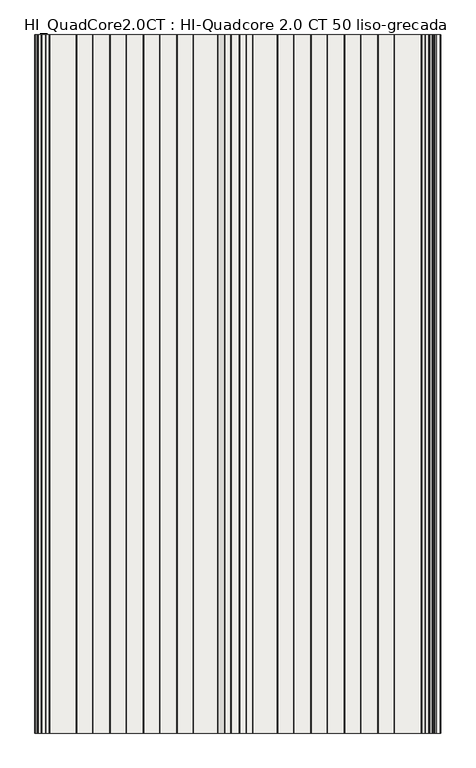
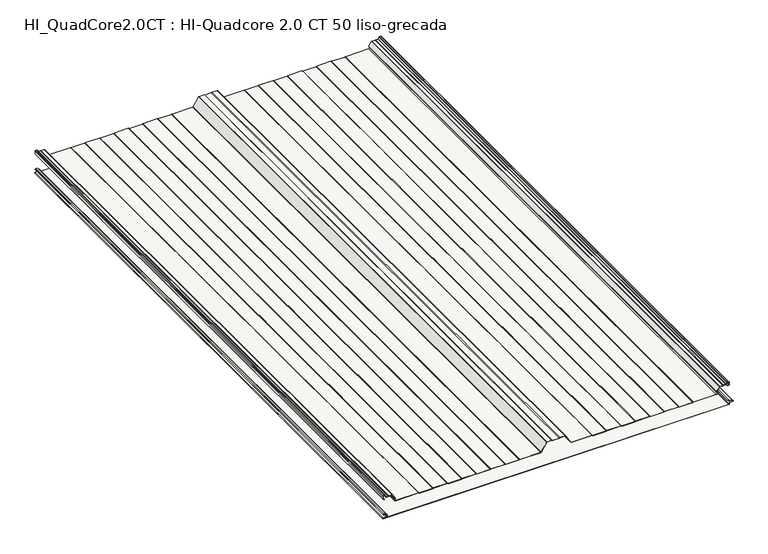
"""IFC4 building model written with IfcOpenShell, lengths in millimetres: slab geometry, HI_QuadCore2.0CT : HI-Quadcore 2.0 CT 50 liso-grecada."""

from ifc_helpers import new_model, si_unit, point, frame, frame_2d, origin, place, context, project, spatial, polyline, circle_curve, trimmed, segment, composite_curve, outline, extrude, source, transform, mapped, element, save
from ifc_brep_helpers import plane_surface, cylinder_surface, revolved_surface, advanced_brep


def hi_quadcore2_0ct_hi_quadcore_2_0_ct_50_liso_grecada_e1955714(model_context):
    return source(origin(), model_context, "Body", "SolidModel", [
        advanced_brep(
        [(1153.6125412, 0.0, 16.239302), (1151.6320413, 0.0, 14.2588021), (1153.3026044, 0.0, 12.2960661), (1161.7027672, 0.0, 10.9645747), (1161.6806488, 0.0, 5.2720118), (1151.7277556, 0.0, 3.7755366), (1152.0100062, 0.0, 0.0), (2297.9590685, 0.0, 0.0), (2300.1391392, 0.0, 2.1800708), (2302.6636211, 0.0, 5.0353254), (2310.9083654, 0.0, 6.0356531), (2310.9083654, 0.0, 10.2043469), (2300.9419234, 0.0, 11.413338), (2298.6324398, 0.0, 14.0237344), (2297.5187526, 0.0, 16.24), (2292.7624398, 0.0, 16.24), (2292.7624398, 0.0, 15.44), (2297.2282701, 0.0, 15.44), (2297.8324398, 0.0, 14.0237344), (2300.8450446, 0.0, 10.6192254), (2310.7843299, 0.0, 9.4135286), (2310.7843221, 0.0, 6.8264698), (2302.5664905, 0.0, 5.8294074), (2299.3391392, 0.0, 2.1800708), (2297.9590685, 0.0, 0.8), (1152.0100062, 0.0, 0.8), (1151.8467032, 0.0, 2.9844289), (1161.7995989, 0.0, 4.4809044), (1161.8278581, 0.0, 11.7547343), (1153.4279307, 0.0, 13.084535), (1152.4319301, 0.0, 14.2584682), (1153.6125693, 0.0, 15.4391074), (1157.510215, 0.0, 15.4391074), (1157.510215, 0.0, 16.239302), (1153.6125412, 2000.0, 16.239302), (1157.510215, 2000.0, 16.239302), (1157.510215, 2000.0, 15.4391074), (1153.6125693, 2000.0, 15.4391074), (1152.4319301, 2000.0, 14.2584682), (1153.4276302, 2000.0, 13.0866965), (1161.8278581, 2000.0, 11.7547343), (1161.7995989, 2000.0, 4.4809044), (1151.8467032, 2000.0, 2.9844289), (1152.0100062, 2000.0, 0.8), (2297.9590685, 2000.0, 0.8), (2299.3391392, 2000.0, 2.1800708), (2302.5664905, 2000.0, 5.8294074), (2310.7843221, 2000.0, 6.8264698), (2310.7843299, 2000.0, 9.4135286), (2300.8450446, 2000.0, 10.6192254), (2297.8324398, 2000.0, 14.0237344), (2297.2282701, 2000.0, 15.44), (2292.7624398, 2000.0, 15.44), (2292.7624398, 2000.0, 16.24), (2297.5187526, 2000.0, 16.24), (2298.6324398, 2000.0, 14.0237344), (2300.9419234, 2000.0, 11.413338), (2310.9083654, 2000.0, 10.2043469), (2310.9083654, 2000.0, 6.0356531), (2302.6636211, 2000.0, 5.0353254), (2300.1391392, 2000.0, 2.1800708), (2297.9590685, 2000.0, 0.0), (1152.0100062, 2000.0, 0.0), (1151.7277556, 2000.0, 3.7755366), (1161.6806488, 2000.0, 5.2720118), (1161.7027672, 2000.0, 10.9645747), (1153.3028397, 2000.0, 12.2943753), (1151.6320413, 2000.0, 14.2588021)],
        [
            (0, 1, circle_curve(frame((1153.6125412, 0.0, 14.2588021), z_axis=(0.0, -1.0, 0.0), x_axis=(1.0, 0.0, 0.0)), 1.9804999)),
            (1, 2, circle_curve(frame((1153.612237, 0.0, 14.2519163), z_axis=(0.0, -1.0, 0.0), x_axis=(1.0, 0.0, 0.0)), 1.9802076)),
            (2, 3),
            (3, 4, circle_curve(frame((1161.2524398, 0.0, 8.12), z_axis=(0.0, 1.0, 0.0), x_axis=(1.0, 0.0, 0.0)), 2.88)),
            (4, 5),
            (5, 6, circle_curve(frame((1152.0100062, 0.0, 1.8983185), z_axis=(0.0, -1.0, 0.0), x_axis=(1.0, 0.0, 0.0)), 1.8983185)),
            (6, 7),
            (7, 8, circle_curve(frame((2297.9590685, 0.0, 2.1800708), z_axis=(0.0, -1.0, 0.0), x_axis=(1.0, 0.0, 0.0)), 2.1800708)),
            (8, 9, circle_curve(frame((2303.0160638, 0.0, 2.1800708), z_axis=(0.0, 1.0, 0.0), x_axis=(1.0, 0.0, 0.0)), 2.8769246)),
            (9, 10),
            (10, 11, circle_curve(frame((2310.5224398, 0.0, 8.12), z_axis=(0.0, -1.0, 0.0), x_axis=(1.0, 0.0, 0.0)), 2.1197737)),
            (11, 12),
            (12, 13, circle_curve(frame((2301.2624398, 0.0, 14.0237344), z_axis=(0.0, 1.0, 0.0), x_axis=(1.0, 0.0, 0.0)), 2.63)),
            (13, 14, circle_curve(frame((2295.8703839, 0.0, 14.0237344), z_axis=(0.0, -1.0, 0.0), x_axis=(1.0, 0.0, 0.0)), 2.7620559)),
            (14, 15),
            (15, 16),
            (16, 17),
            (17, 18, circle_curve(frame((2295.8703839, 0.0, 14.0237344), z_axis=(0.0, 1.0, 0.0), x_axis=(1.0, 0.0, 0.0)), 1.9620559)),
            (18, 19, circle_curve(frame((2301.2624398, 0.0, 14.0237344), z_axis=(0.0, -1.0, 0.0), x_axis=(1.0, 0.0, 0.0)), 3.43)),
            (19, 20),
            (20, 21, circle_curve(frame((2310.5224398, 0.0, 8.12), z_axis=(0.0, 1.0, 0.0), x_axis=(1.0, 0.0, 0.0)), 1.3197737)),
            (21, 22),
            (22, 23, circle_curve(frame((2303.0160638, 0.0, 2.1800708), z_axis=(0.0, -1.0, 0.0), x_axis=(1.0, 0.0, 0.0)), 3.6769246)),
            (23, 24, circle_curve(frame((2297.9590685, 0.0, 2.1800708), z_axis=(0.0, 1.0, 0.0), x_axis=(1.0, 0.0, 0.0)), 1.3800708)),
            (24, 25),
            (25, 26, circle_curve(frame((1152.0100062, 0.0, 1.8983185), z_axis=(0.0, 1.0, 0.0), x_axis=(1.0, 0.0, 0.0)), 1.0983185)),
            (26, 27),
            (27, 28, circle_curve(frame((1161.2524398, 0.0, 8.12), z_axis=(0.0, -1.0, 0.0), x_axis=(1.0, 0.0, 0.0)), 3.68)),
            (28, 29),
            (29, 30, circle_curve(frame((1153.6121809, 0.0, 14.2524448), z_axis=(0.0, 1.0, 0.0), x_axis=(1.0, 0.0, 0.0)), 1.1802661)),
            (30, 31, circle_curve(frame((1153.6125693, 0.0, 14.2584682), z_axis=(0.0, 1.0, 0.0), x_axis=(1.0, 0.0, 0.0)), 1.1806391)),
            (31, 32),
            (32, 33),
            (33, 0),
            (34, 35),
            (35, 36),
            (36, 37),
            (37, 38, circle_curve(frame((1153.6125693, 2000.0, 14.2584682), z_axis=(0.0, -1.0, 0.0), x_axis=(1.0, 0.0, 0.0)), 1.1806391)),
            (38, 39, circle_curve(frame((1153.6121809, 2000.0, 14.2524448), z_axis=(0.0, -1.0, 0.0), x_axis=(1.0, 0.0, 0.0)), 1.1802661)),
            (39, 40),
            (40, 41, circle_curve(frame((1161.2524398, 2000.0, 8.12), z_axis=(0.0, 1.0, 0.0), x_axis=(1.0, 0.0, 0.0)), 3.68)),
            (41, 42),
            (42, 43, circle_curve(frame((1152.0100062, 2000.0, 1.8983185), z_axis=(0.0, -1.0, 0.0), x_axis=(1.0, 0.0, 0.0)), 1.0983185)),
            (43, 44),
            (44, 45, circle_curve(frame((2297.9590685, 2000.0, 2.1800708), z_axis=(0.0, -1.0, 0.0), x_axis=(1.0, 0.0, 0.0)), 1.3800708)),
            (45, 46, circle_curve(frame((2303.0160638, 2000.0, 2.1800708), z_axis=(0.0, 1.0, 0.0), x_axis=(1.0, 0.0, 0.0)), 3.6769246)),
            (46, 47),
            (47, 48, circle_curve(frame((2310.5224398, 2000.0, 8.12), z_axis=(0.0, -1.0, 0.0), x_axis=(1.0, 0.0, 0.0)), 1.3197737)),
            (48, 49),
            (49, 50, circle_curve(frame((2301.2624398, 2000.0, 14.0237344), z_axis=(0.0, 1.0, 0.0), x_axis=(1.0, 0.0, 0.0)), 3.43)),
            (50, 51, circle_curve(frame((2295.8703839, 2000.0, 14.0237344), z_axis=(0.0, -1.0, 0.0), x_axis=(1.0, 0.0, 0.0)), 1.9620559)),
            (51, 52),
            (52, 53),
            (53, 54),
            (54, 55, circle_curve(frame((2295.8703839, 2000.0, 14.0237344), z_axis=(0.0, 1.0, 0.0), x_axis=(1.0, 0.0, 0.0)), 2.7620559)),
            (55, 56, circle_curve(frame((2301.2624398, 2000.0, 14.0237344), z_axis=(0.0, -1.0, 0.0), x_axis=(1.0, 0.0, 0.0)), 2.63)),
            (56, 57),
            (57, 58, circle_curve(frame((2310.5224398, 2000.0, 8.12), z_axis=(0.0, 1.0, 0.0), x_axis=(1.0, 0.0, 0.0)), 2.1197737)),
            (58, 59),
            (59, 60, circle_curve(frame((2303.0160638, 2000.0, 2.1800708), z_axis=(0.0, -1.0, 0.0), x_axis=(1.0, 0.0, 0.0)), 2.8769246)),
            (60, 61, circle_curve(frame((2297.9590685, 2000.0, 2.1800708), z_axis=(0.0, 1.0, 0.0), x_axis=(1.0, 0.0, 0.0)), 2.1800708)),
            (61, 62),
            (62, 63, circle_curve(frame((1152.0100062, 2000.0, 1.8983185), z_axis=(0.0, 1.0, 0.0), x_axis=(1.0, 0.0, 0.0)), 1.8983185)),
            (63, 64),
            (64, 65, circle_curve(frame((1161.2524398, 2000.0, 8.12), z_axis=(0.0, -1.0, 0.0), x_axis=(1.0, 0.0, 0.0)), 2.88)),
            (65, 66),
            (66, 67, circle_curve(frame((1153.612237, 2000.0, 14.2519163), z_axis=(0.0, 1.0, 0.0), x_axis=(1.0, 0.0, 0.0)), 1.9802076)),
            (67, 34, circle_curve(frame((1153.6125412, 2000.0, 14.2588021), z_axis=(0.0, 1.0, 0.0), x_axis=(1.0, 0.0, 0.0)), 1.9804999)),
            (0, 34),
            (67, 1),
            (66, 2),
            (65, 3),
            (64, 4),
            (63, 5),
            (62, 6),
            (61, 7),
            (60, 8),
            (59, 9),
            (58, 10),
            (57, 11),
            (56, 12),
            (55, 13),
            (54, 14),
            (53, 15),
            (52, 16),
            (51, 17),
            (50, 18),
            (49, 19),
            (48, 20),
            (47, 21),
            (46, 22),
            (45, 23),
            (44, 24),
            (43, 25),
            (42, 26),
            (41, 27),
            (40, 28),
            (39, 29),
            (38, 30),
            (37, 31),
            (36, 32),
            (35, 33),
        ],
        [
            plane_surface(frame((1155.5930411, 0.0, 14.2588021), z_axis=(0.0, -1.0, 0.0), x_axis=(0.0, 0.0, 1.0))),
            plane_surface(frame((1155.5930411, 2000.0, 14.2588021), z_axis=(0.0, 1.0, 0.0), x_axis=(0.0, 0.0, -1.0))),
            cylinder_surface(frame((1153.6125412, 2000.0, 14.2588021), z_axis=(0.0, -1.0, 0.0), x_axis=(1.0, 0.0, 0.0)), 1.9804999),
            cylinder_surface(frame((1153.612237, 2000.0, 14.2519163), z_axis=(0.0, -1.0, 0.0), x_axis=(1.0, 0.0, 0.0)), 1.9802076),
            plane_surface(frame((1153.3028397, 0.0, 12.2943753), z_axis=(-0.15636367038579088, 0.0, -0.9876995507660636), x_axis=(0.0, 1.0, 0.0))),
            revolved_surface(polyline([(1164.1324398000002, 2000.0, 8.12), (1164.1324398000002, 0.0, 8.12)]), (1161.2524398, 2000.0, 8.12), (0.0, 1.0, 0.0)),
            plane_surface(frame((1161.6806488, 0.0, 5.2720118), z_axis=(-0.14868453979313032, 0.0, 0.9888846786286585), x_axis=(0.0, 1.0, 0.0))),
            cylinder_surface(frame((1152.0100062, 2000.0, 1.8983185), z_axis=(0.0, -1.0, 0.0), x_axis=(1.0, 0.0, 0.0)), 1.8983185),
            plane_surface(frame((1152.0100062, 0.0, 0.0), z_axis=(0.0, 0.0, -1.0), x_axis=(0.0, 1.0, 0.0))),
            cylinder_surface(frame((2297.9590685, 2000.0, 2.1800708), z_axis=(0.0, -1.0, 0.0), x_axis=(1.0, 0.0, 0.0)), 2.1800708),
            revolved_surface(polyline([(2305.8929884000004, 2000.0, 2.1800708), (2305.8929884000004, 0.0, 2.1800708)]), (2303.0160638, 2000.0, 2.1800708), (0.0, 1.0, 0.0)),
            plane_surface(frame((2302.6636211, 0.0, 5.0353254), z_axis=(0.12044584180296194, 0.0, -0.9927198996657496), x_axis=(0.0, 1.0, 0.0))),
            cylinder_surface(frame((2310.5224398, 2000.0, 8.12), z_axis=(0.0, -1.0, 0.0), x_axis=(1.0, 0.0, 0.0)), 2.1197737),
            plane_surface(frame((2310.9083654, 0.0, 10.2043469), z_axis=(0.12042339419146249, 0.0, 0.9927226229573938), x_axis=(0.0, 1.0, 0.0))),
            revolved_surface(polyline([(2303.8924398, 2000.0, 14.0237344), (2303.8924398, 0.0, 14.0237344)]), (2301.2624398, 2000.0, 14.0237344), (0.0, 1.0, 0.0)),
            cylinder_surface(frame((2295.8703839, 2000.0, 14.0237344), z_axis=(0.0, -1.0, 0.0), x_axis=(1.0, 0.0, 0.0)), 2.7620559),
            plane_surface(frame((2297.5187526, 0.0, 16.24), z_axis=(0.0, 0.0, 1.0), x_axis=(0.0, 1.0, 0.0))),
            plane_surface(frame((2292.7624398, 0.0, 16.24), z_axis=(-1.0, 0.0, 0.0), x_axis=(0.0, 1.0, 0.0))),
            plane_surface(frame((2292.7624398, 0.0, 15.44), z_axis=(0.0, 0.0, -1.0), x_axis=(0.0, 1.0, 0.0))),
            revolved_surface(polyline([(2297.8324398, 2000.0, 14.0237344), (2297.8324398, 0.0, 14.0237344)]), (2295.8703839, 2000.0, 14.0237344), (0.0, 1.0, 0.0)),
            cylinder_surface(frame((2301.2624398, 2000.0, 14.0237344), z_axis=(0.0, -1.0, 0.0), x_axis=(1.0, 0.0, 0.0)), 3.43),
            plane_surface(frame((2300.8450446, 0.0, 10.6192254), z_axis=(-0.12042339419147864, 0.0, -0.9927226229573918), x_axis=(0.0, 1.0, 0.0))),
            revolved_surface(polyline([(2311.8422135, 2000.0, 8.12), (2311.8422135, 0.0, 8.12)]), (2310.5224398, 2000.0, 8.12), (0.0, 1.0, 0.0)),
            plane_surface(frame((2310.7843221, 0.0, 6.8264698), z_axis=(-0.12044584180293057, 0.0, 0.9927198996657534), x_axis=(0.0, 1.0, 0.0))),
            cylinder_surface(frame((2303.0160638, 2000.0, 2.1800708), z_axis=(0.0, -1.0, 0.0), x_axis=(1.0, 0.0, 0.0)), 3.6769246),
            revolved_surface(polyline([(2299.3391392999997, 2000.0, 2.1800708), (2299.3391392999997, 0.0, 2.1800708)]), (2297.9590685, 2000.0, 2.1800708), (0.0, 1.0, 0.0)),
            plane_surface(frame((2297.9590685, 0.0, 0.8), z_axis=(0.0, 0.0, 1.0), x_axis=(0.0, 1.0, 0.0))),
            revolved_surface(polyline([(1153.1083247, 2000.0, 1.8983185), (1153.1083247, 0.0, 1.8983185)]), (1152.0100062, 2000.0, 1.8983185), (0.0, 1.0, 0.0)),
            plane_surface(frame((1151.8467032, 0.0, 2.9844289), z_axis=(0.14868453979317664, 0.0, -0.9888846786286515), x_axis=(0.0, 1.0, 0.0))),
            cylinder_surface(frame((1161.2524398, 2000.0, 8.12), z_axis=(0.0, -1.0, 0.0), x_axis=(1.0, 0.0, 0.0)), 3.68),
            plane_surface(frame((1161.8278581, 0.0, 11.7547343), z_axis=(0.15636367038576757, 0.0, 0.9876995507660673), x_axis=(0.0, 1.0, 0.0))),
            revolved_surface(polyline([(1154.792447, 2000.0, 14.2524448), (1154.792447, 0.0, 14.2524448)]), (1153.6121809, 2000.0, 14.2524448), (0.0, 1.0, 0.0)),
            revolved_surface(polyline([(1154.7932084, 2000.0, 14.2584682), (1154.7932084, 0.0, 14.2584682)]), (1153.6125693, 2000.0, 14.2584682), (0.0, 1.0, 0.0)),
            plane_surface(frame((1153.6125693, 0.0, 15.4391074), z_axis=(0.0, 0.0, -1.0), x_axis=(0.0, 1.0, 0.0))),
            plane_surface(frame((1157.510215, 0.0, 15.4391074), z_axis=(1.0, 0.0, 0.0), x_axis=(0.0, 1.0, 0.0))),
            plane_surface(frame((1157.510215, 0.0, 16.239302), z_axis=(0.0, 0.0, 1.0), x_axis=(0.0, 1.0, 0.0))),
        ],
        [
            (0, [[1, 2, 3, 4, 5, 6, 7, 8, 9, 10, 11, 12, 13, 14, 15, 16, 17, 18, 19, 20, 21, 22, 23, 24, 25, 26, 27, 28, 29, 30, 31, 32, 33, 34]]),
            (1, [[35, 36, 37, 38, 39, 40, 41, 42, 43, 44, 45, 46, 47, 48, 49, 50, 51, 52, 53, 54, 55, 56, 57, 58, 59, 60, 61, 62, 63, 64, 65, 66, 67, 68]]),
            (2, [[-1, 69, -68, 70]]),
            (3, [[-2, -70, -67, 71]]),
            (4, [[-3, -71, -66, 72]]),
            (5, [[-4, -72, -65, 73]]),
            (6, [[-5, -73, -64, 74]]),
            (7, [[-6, -74, -63, 75]]),
            (8, [[-7, -75, -62, 76]]),
            (9, [[-8, -76, -61, 77]]),
            (10, [[-9, -77, -60, 78]]),
            (11, [[-10, -78, -59, 79]]),
            (12, [[-11, -79, -58, 80]]),
            (13, [[-12, -80, -57, 81]]),
            (14, [[-13, -81, -56, 82]]),
            (15, [[-14, -82, -55, 83]]),
            (16, [[-15, -83, -54, 84]]),
            (17, [[-16, -84, -53, 85]]),
            (18, [[-17, -85, -52, 86]]),
            (19, [[-18, -86, -51, 87]]),
            (20, [[-19, -87, -50, 88]]),
            (21, [[-20, -88, -49, 89]]),
            (22, [[-21, -89, -48, 90]]),
            (23, [[-22, -90, -47, 91]]),
            (24, [[-23, -91, -46, 92]]),
            (25, [[-24, -92, -45, 93]]),
            (26, [[-25, -93, -44, 94]]),
            (27, [[-26, -94, -43, 95]]),
            (28, [[-27, -95, -42, 96]]),
            (29, [[-28, -96, -41, 97]]),
            (30, [[-29, -97, -40, 98]]),
            (31, [[-30, -98, -39, 99]]),
            (32, [[-31, -99, -38, 100]]),
            (33, [[-32, -100, -37, 101]]),
            (34, [[-33, -101, -36, 102]]),
            (35, [[-34, -102, -35, -69]]),
        ],
    ),
        extrude(outline(composite_curve([segment(polyline([(67.9163804, 1151.3824194), (65.7425833, 1155.1475465), (66.4354036, 1155.5475465), (68.6669358, 1151.6824194), (78.1, 1151.6824194)]), True, "CONTINUOUS"), segment(trimmed(circle_curve(frame_2d((78.1, 1152.7824194)), 1.1), [point((78.1, 1151.6824194))], [point((79.2, 1152.7824194))], True, "CARTESIAN"), True, "CONTINUOUS"), segment(polyline([(79.2, 1152.7824194), (79.2, 1156.3760168)]), True, "CONTINUOUS"), segment(trimmed(circle_curve(frame_2d((78.1, 1156.3760168)), 1.1), [point((79.2, 1156.3760168))], [point((78.5209518, 1157.3922843))], True, "CARTESIAN"), True, "CONTINUOUS"), segment(polyline([(78.5209518, 1157.3922843), (74.0383476, 1159.2490397)]), True, "CONTINUOUS"), segment(trimmed(circle_curve(frame_2d((74.93, 1161.4016791)), 2.33), [point((74.0383476, 1159.2490397))], [point((72.6, 1161.4016791))], False, "CARTESIAN"), True, "CONTINUOUS"), segment(polyline([(72.6, 1161.4016791), (72.6, 1168.1276514), (71.8110374, 1169.8324194), (72.6, 1171.5371875), (72.6, 1180.8643848)]), True, "CONTINUOUS"), segment(trimmed(circle_curve(frame_2d((71.5, 1180.8643848)), 1.1), [point((72.6, 1180.8643848))], [point((72.1230469, 1181.7709236))], True, "CARTESIAN"), True, "CONTINUOUS"), segment(polyline([(72.1230469, 1181.7709236), (58.5361221, 1191.1089583)]), True, "CONTINUOUS"), segment(trimmed(circle_curve(frame_2d((57.9130752, 1190.2024195)), 1.1), [point((58.5361221, 1191.1089583))], [point((57.0692788, 1190.9081159))], True, "CARTESIAN"), True, "CONTINUOUS"), segment(polyline([(57.0692788, 1190.9081159), (56.2744555, 1189.9577511)]), True, "CONTINUOUS"), segment(trimmed(circle_curve(frame_2d((53.3, 1192.7795617)), 4.1), [point((56.2744555, 1189.9577511))], [point((49.2, 1192.7795617))], False, "CARTESIAN"), True, "CONTINUOUS"), segment(polyline([(49.2, 1192.7795617), (49.2, 1268.8832267), (48.2, 1270.6152775), (48.2, 1315.6495614), (49.2, 1317.3816122), (49.2, 1364.8832267), (48.2, 1366.6152775), (48.2, 1411.6495614), (49.2, 1413.3816122), (49.2, 1460.8832267), (48.2, 1462.6152775), (48.2, 1507.6495614), (49.2, 1509.3816122), (49.2, 1556.8832267), (48.2, 1558.6152775), (48.2, 1603.6495614), (49.2, 1605.3816122), (49.2, 1674.3619266)]), True, "CONTINUOUS"), segment(trimmed(circle_curve(frame_2d((51.53, 1674.3619266)), 2.33), [point((49.2, 1674.3619266))], [point((50.2833287, 1676.330355))], False, "CARTESIAN"), True, "CONTINUOUS"), segment(polyline([(50.2833287, 1676.330355), (78.6885573, 1694.3203331)]), True, "CONTINUOUS"), segment(trimmed(circle_curve(frame_2d((78.1, 1695.2496341)), 1.1), [point((78.6885573, 1694.3203331))], [point((79.2, 1695.2496341))], True, "CARTESIAN"), True, "CONTINUOUS"), segment(polyline([(79.2, 1695.2496341), (79.2, 1711.3832267), (77.7, 1713.9813029), (77.7, 1736.283536), (79.2, 1738.8816122), (79.2, 1755.0152048)]), True, "CONTINUOUS"), segment(trimmed(circle_curve(frame_2d((78.1, 1755.0152048)), 1.1), [point((79.2, 1755.0152048))], [point((78.6885573, 1755.9445057))], True, "CARTESIAN"), True, "CONTINUOUS"), segment(polyline([(78.6885573, 1755.9445057), (50.2833287, 1773.9344839)]), True, "CONTINUOUS"), segment(trimmed(circle_curve(frame_2d((51.53, 1775.9029123)), 2.33), [point((50.2833287, 1773.9344839))], [point((49.2, 1775.9029123))], False, "CARTESIAN"), True, "CONTINUOUS"), segment(polyline([(49.2, 1775.9029123), (49.2, 1844.8832267), (48.2, 1846.6152775), (48.2, 1891.6495614), (49.2, 1893.3816122), (49.2, 1940.8832267), (48.2, 1942.6152775), (48.2, 1987.6495614), (49.2, 1989.3816122), (49.2, 2036.8832267), (48.2, 2038.6152775), (48.2, 2083.6495614), (49.2, 2085.3816122), (49.2, 2132.8832267), (48.2, 2134.6152775), (48.2, 2179.6495614), (49.2, 2181.3816122), (49.2, 2257.4852773)]), True, "CONTINUOUS"), segment(trimmed(circle_curve(frame_2d((53.3, 2257.4852773)), 4.1), [point((49.2, 2257.4852773))], [point((56.2744554, 2260.3070878))], False, "CARTESIAN"), True, "CONTINUOUS"), segment(polyline([(56.2744554, 2260.3070878), (57.0692788, 2259.356723)]), True, "CONTINUOUS"), segment(trimmed(circle_curve(frame_2d((57.9130753, 2260.0624194)), 1.1), [point((57.0692788, 2259.356723))], [point((58.5361221, 2259.1558806))], True, "CARTESIAN"), True, "CONTINUOUS"), segment(polyline([(58.5361221, 2259.1558806), (72.1230469, 2268.4939153)]), True, "CONTINUOUS"), segment(trimmed(circle_curve(frame_2d((71.5, 2269.4004541)), 1.1), [point((72.1230469, 2268.4939153))], [point((72.6, 2269.4004541))], True, "CARTESIAN"), True, "CONTINUOUS"), segment(polyline([(72.6, 2269.4004541), (72.6, 2278.7276514), (71.8110374, 2280.4324194), (72.6, 2282.1371875), (72.6, 2288.8631598)]), True, "CONTINUOUS"), segment(trimmed(circle_curve(frame_2d((74.93, 2288.8631598)), 2.33), [point((72.6, 2288.8631598))], [point((74.0383476, 2291.0157992))], False, "CARTESIAN"), True, "CONTINUOUS"), segment(polyline([(74.0383476, 2291.0157992), (78.5209518, 2292.8725546)]), True, "CONTINUOUS"), segment(trimmed(circle_curve(frame_2d((78.1, 2293.8888221)), 1.1), [point((78.5209518, 2292.8725546))], [point((79.2, 2293.8888221))], True, "CARTESIAN"), True, "CONTINUOUS"), segment(polyline([(79.2, 2293.8888221), (79.2, 2297.4824194)]), True, "CONTINUOUS"), segment(trimmed(circle_curve(frame_2d((78.1, 2297.4824194)), 1.1), [point((79.2, 2297.4824194))], [point((78.1, 2298.5824194))], True, "CARTESIAN"), True, "CONTINUOUS"), segment(polyline([(78.1, 2298.5824194), (68.6669358, 2298.5824194), (66.4354036, 2294.7172924), (65.7425833, 2295.1172924), (67.9163804, 2298.8824194)]), True, "CONTINUOUS"), segment(trimmed(circle_curve(frame_2d((68.7824058, 2298.3824194)), 1.0), [point((67.9163804, 2298.8824194))], [point((68.7824058, 2299.3824194))], False, "CARTESIAN"), True, "CONTINUOUS"), segment(polyline([(68.7824058, 2299.3824194), (78.1, 2299.3824194)]), True, "CONTINUOUS"), segment(trimmed(circle_curve(frame_2d((78.1, 2297.4824194)), 1.9), [point((78.1, 2299.3824194))], [point((80.0, 2297.4824194))], False, "CARTESIAN"), True, "CONTINUOUS"), segment(polyline([(80.0, 2297.4824194), (80.0, 2293.8888221)]), True, "CONTINUOUS"), segment(trimmed(circle_curve(frame_2d((78.1, 2293.8888221)), 1.9), [point((80.0, 2293.8888221))], [point((78.8270985, 2292.133451))], False, "CARTESIAN"), True, "CONTINUOUS"), segment(polyline([(78.8270985, 2292.133451), (74.3444944, 2290.2766955)]), True, "CONTINUOUS"), segment(trimmed(circle_curve(frame_2d((74.93, 2288.8631598)), 1.53), [point((74.3444944, 2290.2766955))], [point((73.4, 2288.8631598))], True, "CARTESIAN"), True, "CONTINUOUS"), segment(polyline([(73.4, 2288.8631598), (73.4, 2281.9610429), (72.6925567, 2280.4324194), (73.4, 2278.903796), (73.4, 2269.4004541)]), True, "CONTINUOUS"), segment(trimmed(circle_curve(frame_2d((71.5, 2269.4004541)), 1.9), [point((73.4, 2269.4004541))], [point((72.5761719, 2267.8346144))], False, "CARTESIAN"), True, "CONTINUOUS"), segment(polyline([(72.5761719, 2267.8346144), (58.9892471, 2258.4965797)]), True, "CONTINUOUS"), segment(trimmed(circle_curve(frame_2d((57.9130753, 2260.0624194)), 1.9), [point((58.9892471, 2258.4965797))], [point((56.4556086, 2258.8434892))], False, "CARTESIAN"), True, "CONTINUOUS"), segment(polyline([(56.4556086, 2258.8434892), (55.6777166, 2259.7736094)]), True, "CONTINUOUS"), segment(trimmed(circle_curve(frame_2d((53.3, 2257.4852773)), 3.3), [point((55.6777166, 2259.7736094))], [point((50.0, 2257.4852773))], True, "CARTESIAN"), True, "CONTINUOUS"), segment(polyline([(50.0, 2257.4852773), (50.0, 2181.5691766)]), True, "CONTINUOUS"), segment(trimmed(circle_curve(frame_2d((48.5, 2181.5691766)), 1.5), [point((50.0, 2181.5691766))], [point((49.7990381, 2180.8191766))], False, "CARTESIAN"), True, "CONTINUOUS"), segment(polyline([(49.7990381, 2180.8191766), (49.0, 2179.435202), (49.0, 2134.8296369), (49.7990381, 2133.4456623)]), True, "CONTINUOUS"), segment(trimmed(circle_curve(frame_2d((48.5, 2132.6956623)), 1.5), [point((49.7990381, 2133.4456623))], [point((50.0, 2132.6956623))], False, "CARTESIAN"), True, "CONTINUOUS"), segment(polyline([(50.0, 2132.6956623), (50.0, 2085.5691766)]), True, "CONTINUOUS"), segment(trimmed(circle_curve(frame_2d((48.5, 2085.5691766)), 1.5), [point((50.0, 2085.5691766))], [point((49.7990381, 2084.8191766))], False, "CARTESIAN"), True, "CONTINUOUS"), segment(polyline([(49.7990381, 2084.8191766), (49.0, 2083.435202), (49.0, 2038.8296369), (49.7990381, 2037.4456623)]), True, "CONTINUOUS"), segment(trimmed(circle_curve(frame_2d((48.5, 2036.6956623)), 1.5), [point((49.7990381, 2037.4456623))], [point((50.0, 2036.6956623))], False, "CARTESIAN"), True, "CONTINUOUS"), segment(polyline([(50.0, 2036.6956623), (50.0, 1989.5691766)]), True, "CONTINUOUS"), segment(trimmed(circle_curve(frame_2d((48.5, 1989.5691766)), 1.5), [point((50.0, 1989.5691766))], [point((49.7990381, 1988.8191766))], False, "CARTESIAN"), True, "CONTINUOUS"), segment(polyline([(49.7990381, 1988.8191766), (49.0, 1987.435202), (49.0, 1942.8296369), (49.7990381, 1941.4456623)]), True, "CONTINUOUS"), segment(trimmed(circle_curve(frame_2d((48.5, 1940.6956623)), 1.5), [point((49.7990381, 1941.4456623))], [point((50.0, 1940.6956623))], False, "CARTESIAN"), True, "CONTINUOUS"), segment(polyline([(50.0, 1940.6956623), (50.0, 1893.5691766)]), True, "CONTINUOUS"), segment(trimmed(circle_curve(frame_2d((48.5, 1893.5691766)), 1.5), [point((50.0, 1893.5691766))], [point((49.7990381, 1892.8191766))], False, "CARTESIAN"), True, "CONTINUOUS"), segment(polyline([(49.7990381, 1892.8191766), (49.0, 1891.435202), (49.0, 1846.8296369), (49.7990381, 1845.4456623)]), True, "CONTINUOUS"), segment(trimmed(circle_curve(frame_2d((48.5, 1844.6956623)), 1.5), [point((49.7990381, 1845.4456623))], [point((50.0, 1844.6956623))], False, "CARTESIAN"), True, "CONTINUOUS"), segment(polyline([(50.0, 1844.6956623), (50.0, 1775.9029123)]), True, "CONTINUOUS"), segment(trimmed(circle_curve(frame_2d((51.53, 1775.9029123)), 1.53), [point((50.0, 1775.9029123))], [point((50.7113703, 1774.6103391))], True, "CARTESIAN"), True, "CONTINUOUS"), segment(polyline([(50.7113703, 1774.6103391), (79.116599, 1756.620361)]), True, "CONTINUOUS"), segment(trimmed(circle_curve(frame_2d((78.1, 1755.0152048)), 1.9), [point((79.116599, 1756.620361))], [point((80.0, 1755.0152048))], False, "CARTESIAN"), True, "CONTINUOUS"), segment(polyline([(80.0, 1755.0152048), (80.0, 1738.6672528), (78.5, 1736.0691766), (78.5, 1714.1956623), (80.0, 1711.5975861), (80.0, 1695.2496341)]), True, "CONTINUOUS"), segment(trimmed(circle_curve(frame_2d((78.1, 1695.2496341)), 1.9), [point((80.0, 1695.2496341))], [point((79.116599, 1693.6444779))], False, "CARTESIAN"), True, "CONTINUOUS"), segment(polyline([(79.116599, 1693.6444779), (50.7113703, 1675.6544998)]), True, "CONTINUOUS"), segment(trimmed(circle_curve(frame_2d((51.53, 1674.3619266)), 1.53), [point((50.7113703, 1675.6544998))], [point((50.0, 1674.3619266))], True, "CARTESIAN"), True, "CONTINUOUS"), segment(polyline([(50.0, 1674.3619266), (50.0, 1605.5691766)]), True, "CONTINUOUS"), segment(trimmed(circle_curve(frame_2d((48.5, 1605.5691766)), 1.5), [point((50.0, 1605.5691766))], [point((49.7990381, 1604.8191766))], False, "CARTESIAN"), True, "CONTINUOUS"), segment(polyline([(49.7990381, 1604.8191766), (49.0, 1603.435202), (49.0, 1558.8296369), (49.7990381, 1557.4456623)]), True, "CONTINUOUS"), segment(trimmed(circle_curve(frame_2d((48.5, 1556.6956623)), 1.5), [point((49.7990381, 1557.4456623))], [point((50.0, 1556.6956623))], False, "CARTESIAN"), True, "CONTINUOUS"), segment(polyline([(50.0, 1556.6956623), (50.0, 1509.5691766)]), True, "CONTINUOUS"), segment(trimmed(circle_curve(frame_2d((48.5, 1509.5691766)), 1.5), [point((50.0, 1509.5691766))], [point((49.7990381, 1508.8191766))], False, "CARTESIAN"), True, "CONTINUOUS"), segment(polyline([(49.7990381, 1508.8191766), (49.0, 1507.435202), (49.0, 1462.8296369), (49.7990381, 1461.4456623)]), True, "CONTINUOUS"), segment(trimmed(circle_curve(frame_2d((48.5, 1460.6956623)), 1.5), [point((49.7990381, 1461.4456623))], [point((50.0, 1460.6956623))], False, "CARTESIAN"), True, "CONTINUOUS"), segment(polyline([(50.0, 1460.6956623), (50.0, 1413.5691766)]), True, "CONTINUOUS"), segment(trimmed(circle_curve(frame_2d((48.5, 1413.5691766)), 1.5), [point((50.0, 1413.5691766))], [point((49.7990381, 1412.8191766))], False, "CARTESIAN"), True, "CONTINUOUS"), segment(polyline([(49.7990381, 1412.8191766), (49.0, 1411.435202), (49.0, 1366.8296369), (49.7990381, 1365.4456623)]), True, "CONTINUOUS"), segment(trimmed(circle_curve(frame_2d((48.5, 1364.6956623)), 1.5), [point((49.7990381, 1365.4456623))], [point((50.0, 1364.6956623))], False, "CARTESIAN"), True, "CONTINUOUS"), segment(polyline([(50.0, 1364.6956623), (50.0, 1317.5691766)]), True, "CONTINUOUS"), segment(trimmed(circle_curve(frame_2d((48.5, 1317.5691766)), 1.5), [point((50.0, 1317.5691766))], [point((49.7990381, 1316.8191766))], False, "CARTESIAN"), True, "CONTINUOUS"), segment(polyline([(49.7990381, 1316.8191766), (49.0, 1315.435202), (49.0, 1270.8296369), (49.7990381, 1269.4456623)]), True, "CONTINUOUS"), segment(trimmed(circle_curve(frame_2d((48.5, 1268.6956623)), 1.5), [point((49.7990381, 1269.4456623))], [point((50.0, 1268.6956623))], False, "CARTESIAN"), True, "CONTINUOUS"), segment(polyline([(50.0, 1268.6956623), (50.0, 1192.7795617)]), True, "CONTINUOUS"), segment(trimmed(circle_curve(frame_2d((53.3, 1192.7795617)), 3.3), [point((50.0, 1192.7795617))], [point((55.6777166, 1190.4912296))], True, "CARTESIAN"), True, "CONTINUOUS"), segment(polyline([(55.6777166, 1190.4912296), (56.4556086, 1191.4213497)]), True, "CONTINUOUS"), segment(trimmed(circle_curve(frame_2d((57.9130752, 1190.2024195)), 1.9), [point((56.4556086, 1191.4213497))], [point((58.9892471, 1191.7682592))], False, "CARTESIAN"), True, "CONTINUOUS"), segment(polyline([(58.9892471, 1191.7682592), (72.5761719, 1182.4302246)]), True, "CONTINUOUS"), segment(trimmed(circle_curve(frame_2d((71.5, 1180.8643848)), 1.9), [point((72.5761719, 1182.4302246))], [point((73.4, 1180.8643848))], False, "CARTESIAN"), True, "CONTINUOUS"), segment(polyline([(73.4, 1180.8643848), (73.4, 1171.3610429), (72.6925567, 1169.8324194), (73.4, 1168.303796), (73.4, 1161.4016791)]), True, "CONTINUOUS"), segment(trimmed(circle_curve(frame_2d((74.93, 1161.4016791)), 1.53), [point((73.4, 1161.4016791))], [point((74.3444944, 1159.9881434))], True, "CARTESIAN"), True, "CONTINUOUS"), segment(polyline([(74.3444944, 1159.9881434), (78.8270985, 1158.1313879)]), True, "CONTINUOUS"), segment(trimmed(circle_curve(frame_2d((78.1, 1156.3760168)), 1.9), [point((78.8270985, 1158.1313879))], [point((80.0, 1156.3760168))], False, "CARTESIAN"), True, "CONTINUOUS"), segment(polyline([(80.0, 1156.3760168), (80.0, 1152.7824194)]), True, "CONTINUOUS"), segment(trimmed(circle_curve(frame_2d((78.1, 1152.7824194)), 1.9), [point((80.0, 1152.7824194))], [point((78.1, 1150.8824194))], False, "CARTESIAN"), True, "CONTINUOUS"), segment(polyline([(78.1, 1150.8824194), (68.7824058, 1150.8824194)]), True, "CONTINUOUS"), segment(trimmed(circle_curve(frame_2d((68.7824058, 1151.8824194)), 1.0), [point((68.7824058, 1150.8824194))], [point((67.9163804, 1151.3824194))], False, "CARTESIAN"), True, "CONTINUOUS")], self_intersect=False)), frame((0.0, 0.0, 0.0), z_axis=(0.0, 1.0, 0.0), x_axis=(0.0, 0.0, 1.0)), (0.0, 0.0, 1.0), 2000.0),
    ])


if __name__ == "__main__":
    model = new_model("IFC4")
    model_context = context("Model", 3, world=origin())
    ifc_project = project(units=[si_unit("LENGTHUNIT", "METRE", prefix="MILLI")], contexts=[model_context])
    site = spatial("IfcSite", under=ifc_project)
    building = spatial("IfcBuilding", under=site)
    placement = place(None, origin())
    hi_quadcore2_0ct_hi_quadcore_2_0_ct_50_liso_grecada_shape = hi_quadcore2_0ct_hi_quadcore_2_0_ct_50_liso_grecada_e1955714(model_context)
    element("IfcSlab", 1, ObjectType="HI_QuadCore2.0CT : HI-Quadcore 2.0 CT 50 liso-grecada", at=placement, inside=building, context=model_context, shape_type="MappedRepresentation", body=[
        mapped(hi_quadcore2_0ct_hi_quadcore_2_0_ct_50_liso_grecada_shape, transform((0.0, 0.0, 0.0), x_axis=(1.0, 0.0, 0.0), y_axis=(0.0, 1.0, 0.0), z_axis=(0.0, 0.0, 1.0))),
    ])
    save(model, "model.ifc")
